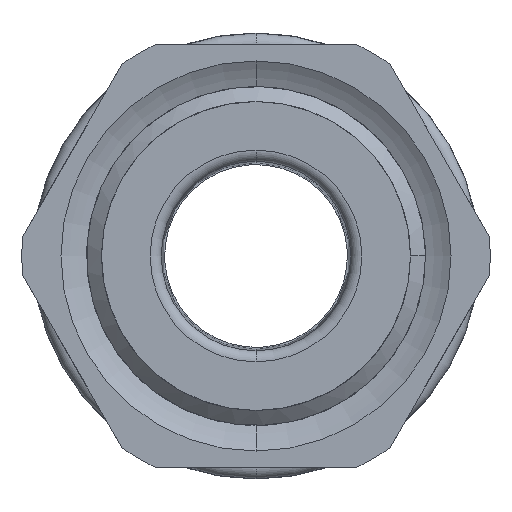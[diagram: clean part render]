
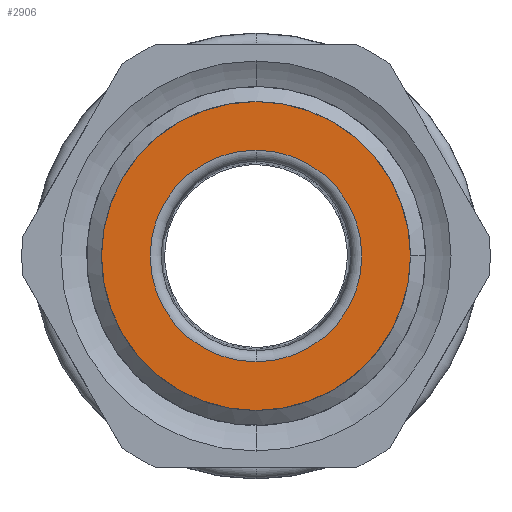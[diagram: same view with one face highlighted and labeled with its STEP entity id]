
A CAD part, front view. The second image highlights one B-rep face of the part: STEP entity #2906.
In plain terms, the highlighted planar face has unit normal (0, -1, 0).
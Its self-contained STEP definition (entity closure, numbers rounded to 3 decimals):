
#174 = ORIENTED_EDGE ( 'NONE', *, *, #6209, .T. ) ;
#232 = EDGE_LOOP ( 'NONE', ( #274, #7618, #174 ) ) ;
#274 = ORIENTED_EDGE ( 'NONE', *, *, #10442, .T. ) ;
#280 = DIRECTION ( 'NONE',  ( 0., 0., -1. ) ) ;
#401 = CIRCLE ( 'NONE', #8209, 4.749 ) ;
#464 = VERTEX_POINT ( 'NONE', #7135 ) ;
#608 = DIRECTION ( 'NONE',  ( 0., 0., -1. ) ) ;
#1271 = CARTESIAN_POINT ( 'NONE',  ( 0., 0., 0. ) ) ;
#2165 = VERTEX_POINT ( 'NONE', #4146 ) ;
#2803 = AXIS2_PLACEMENT_3D ( 'NONE', #15200, #20086, #608 ) ;
#2906 = ADVANCED_FACE ( 'NONE', ( #3675, #8019 ), #8015, .T. ) ;
#2968 = AXIS2_PLACEMENT_3D ( 'NONE', #14615, #12875, #9652 ) ;
#3675 = FACE_OUTER_BOUND ( 'NONE', #232, .T. ) ;
#4146 = CARTESIAN_POINT ( 'NONE',  ( 0., 0., 6.93 ) ) ;
#4586 = DIRECTION ( 'NONE',  ( 0., -1., 0. ) ) ;
#4931 = VERTEX_POINT ( 'NONE', #10570 ) ;
#5171 = ORIENTED_EDGE ( 'NONE', *, *, #13245, .F. ) ;
#5771 = ORIENTED_EDGE ( 'NONE', *, *, #20846, .F. ) ;
#6209 = EDGE_CURVE ( 'NONE', #9699, #464, #14108, .T. ) ;
#6506 = EDGE_CURVE ( 'NONE', #2165, #9699, #7553, .T. ) ;
#6967 = CARTESIAN_POINT ( 'NONE',  ( 0., 0., 0. ) ) ;
#7135 = CARTESIAN_POINT ( 'NONE',  ( 6.93, 0., 0. ) ) ;
#7345 = CIRCLE ( 'NONE', #11763, 4.749 ) ;
#7553 = CIRCLE ( 'NONE', #17038, 6.93 ) ;
#7618 = ORIENTED_EDGE ( 'NONE', *, *, #6506, .T. ) ;
#8015 = PLANE ( 'NONE',  #20987 ) ;
#8019 = FACE_BOUND ( 'NONE', #9101, .T. ) ;
#8209 = AXIS2_PLACEMENT_3D ( 'NONE', #6967, #16535, #17168 ) ;
#8966 = VERTEX_POINT ( 'NONE', #11833 ) ;
#9101 = EDGE_LOOP ( 'NONE', ( #5171, #5771 ) ) ;
#9652 = DIRECTION ( 'NONE',  ( 0., 0., -1. ) ) ;
#9699 = VERTEX_POINT ( 'NONE', #21210 ) ;
#10442 = EDGE_CURVE ( 'NONE', #464, #2165, #19548, .T. ) ;
#10570 = CARTESIAN_POINT ( 'NONE',  ( 0., 0., 4.749 ) ) ;
#11763 = AXIS2_PLACEMENT_3D ( 'NONE', #15211, #18516, #11964 ) ;
#11833 = CARTESIAN_POINT ( 'NONE',  ( 0., 0., -4.749 ) ) ;
#11964 = DIRECTION ( 'NONE',  ( 0., 0., -1. ) ) ;
#12875 = DIRECTION ( 'NONE',  ( 0., -1., 0. ) ) ;
#13245 = EDGE_CURVE ( 'NONE', #8966, #4931, #7345, .T. ) ;
#14108 = CIRCLE ( 'NONE', #2968, 6.93 ) ;
#14615 = CARTESIAN_POINT ( 'NONE',  ( 0., 0., 0. ) ) ;
#14652 = CARTESIAN_POINT ( 'NONE',  ( 4.749, 0., 0. ) ) ;
#15200 = CARTESIAN_POINT ( 'NONE',  ( 0., 0., 0. ) ) ;
#15211 = CARTESIAN_POINT ( 'NONE',  ( 0., 0., 0. ) ) ;
#16535 = DIRECTION ( 'NONE',  ( 0., -1., 0. ) ) ;
#17038 = AXIS2_PLACEMENT_3D ( 'NONE', #1271, #4586, #19246 ) ;
#17168 = DIRECTION ( 'NONE',  ( 0., 0., -1. ) ) ;
#18516 = DIRECTION ( 'NONE',  ( 0., -1., 0. ) ) ;
#19246 = DIRECTION ( 'NONE',  ( 0., 0., -1. ) ) ;
#19548 = CIRCLE ( 'NONE', #2803, 6.93 ) ;
#19613 = DIRECTION ( 'NONE',  ( 0., -1., 0. ) ) ;
#20086 = DIRECTION ( 'NONE',  ( 0., -1., 0. ) ) ;
#20846 = EDGE_CURVE ( 'NONE', #4931, #8966, #401, .T. ) ;
#20987 = AXIS2_PLACEMENT_3D ( 'NONE', #14652, #19613, #280 ) ;
#21210 = CARTESIAN_POINT ( 'NONE',  ( 0., 0., -6.93 ) ) ;
